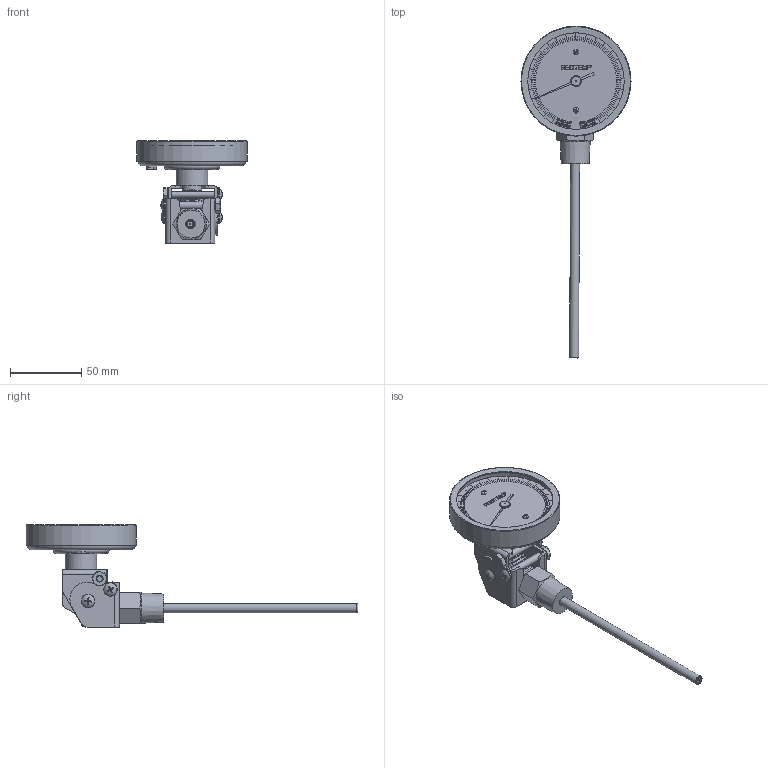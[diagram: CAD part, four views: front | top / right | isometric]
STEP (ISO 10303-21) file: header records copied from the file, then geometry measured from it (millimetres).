
FILE_DESCRIPTION(/* description */ (''),/* implementation_level */ '2;1');
FILE_NAME(/* name */ 'P:\3D Drawings\Bimet\LL\LL-half-NPT\LL-half-NPT-STP\LL-half-NPT-STP.stp',/* time_stamp */ '2015-11-09T14:48:50-08:00',/* author */ ('charles'),/* organization */ (''),/* preprocessor_version */ 'ST-DEVELOPER v15.2',/* originating_system */ 'Autodesk Inventor 2014',/* authorisation */ '');
FILE_SCHEMA (('AUTOMOTIVE_DESIGN { 1 0 10303 214 3 1 1 }'));
Length unit declared in the file: inch
Products named in the file (1): LL-half-NPT
Bounding box: 77.47 x 233.43 x 71.81 mm (x, y, z)
Volume: 73270.4 mm3; surface area: 59602.4 mm2
Topology: 32 solids, 50 shells, 2100 faces, 5876 edges, 3887 vertices
Faces by surface type: plane 1408, bspline 395, cylinder 144, cone 88, torus 61, sphere 4
Full cylindrical faces by diameter (mm): 0.311 x1, 0.778 x1, 2.286 x4, 4.826 x6, 5.08 x2, 6.35 x1, 6.714 x1, 6.934 x2, 9.474 x4, 13.97 x3, 22.225 x1, 67.855 x1, 70.612 x2, 73.406 x1, 75.946 x1, 76.2 x1, 77.47 x1
Entity records: 74204 total; most frequent: CARTESIAN_POINT 21010, ORIENTED_EDGE 11484, DIRECTION 8604, EDGE_CURVE 5741, LINE 4204, VECTOR 4204, VERTEX_POINT 3842, EDGE_LOOP 2642
